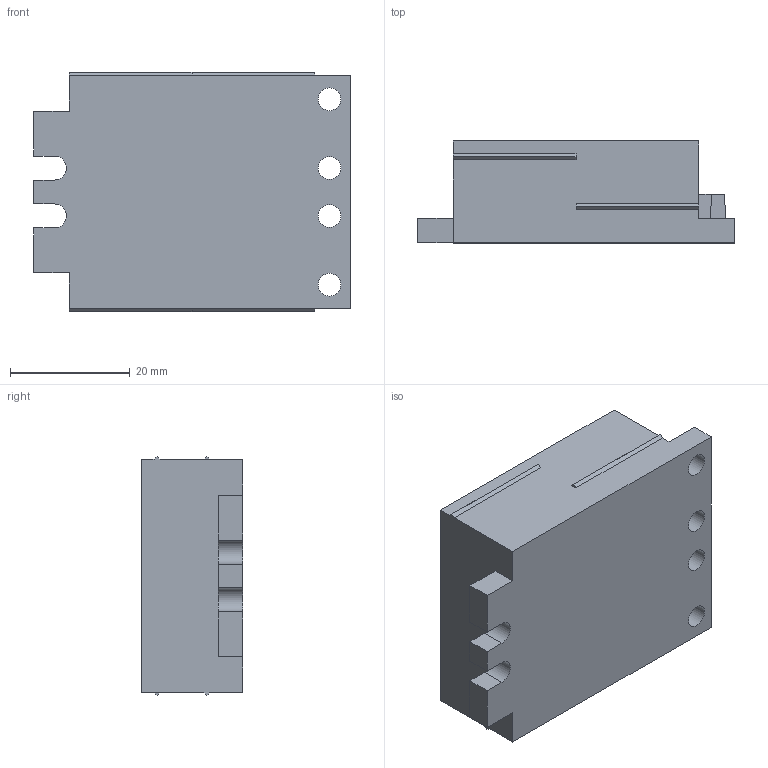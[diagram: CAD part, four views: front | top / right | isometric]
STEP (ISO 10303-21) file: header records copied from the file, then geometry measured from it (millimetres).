
FILE_DESCRIPTION(/* description */ ('STEP AP203'),/* implementation_level */ '2;1');
FILE_NAME(/* name */ '107841 TMS-LTPG-GY',/* time_stamp */ '2024-10-04T14:22:59+02:00',/* author */ ('License CC BY-ND 4.0'),/* organization */ ('CADENAS'),/* preprocessor_version */ 'ST-DEVELOPER v19.3',/* originating_system */ 'PARTsolutions',/* authorisation */ ' ');
FILE_SCHEMA (('CONFIG_CONTROL_DESIGN'));
Length unit declared in the file: millimetre
Products named in the file (1): 107841 TMS-LTPG-GY
Bounding box: 53 x 17 x 40 mm (x, y, z)
Volume: 28617.7 mm3; surface area: 7055.3 mm2
Topology: 1 solids, 1 shells, 52 faces, 150 edges, 100 vertices
Faces by surface type: plane 46, cylinder 6
Full cylindrical faces by diameter (mm): 3.8 x4
Entity records: 1712 total; most frequent: CARTESIAN_POINT 299, ORIENTED_EDGE 292, DIRECTION 264, EDGE_CURVE 146, LINE 134, VECTOR 134, VERTEX_POINT 100, AXIS2_PLACEMENT_3D 65
